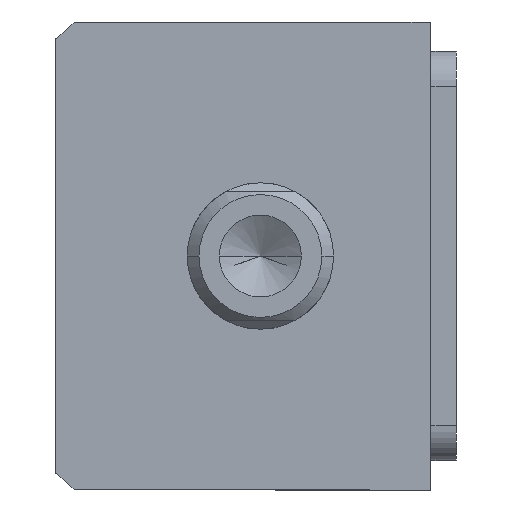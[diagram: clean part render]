
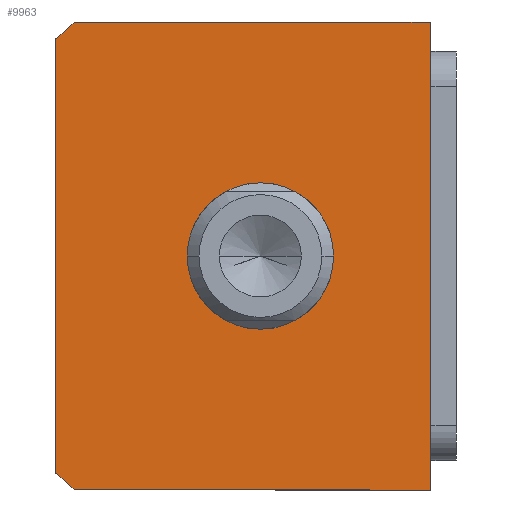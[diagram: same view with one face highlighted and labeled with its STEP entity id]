
A CAD part, front view. The second image highlights one B-rep face of the part: STEP entity #9963.
In plain terms, the highlighted planar face has unit normal (0, -1, 0) as drawn and (0, 0, -1) by its records, which use the part's own axes.
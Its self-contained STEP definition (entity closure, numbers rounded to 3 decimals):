
#32 = VECTOR ( 'NONE', #9331, 1000. ) ;
#50 = DIRECTION ( 'NONE',  ( 0., -1., 0. ) ) ;
#193 = VERTEX_POINT ( 'NONE', #7167 ) ;
#221 = EDGE_CURVE ( 'NONE', #539, #4658, #3336, .T. ) ;
#298 = FACE_OUTER_BOUND ( 'NONE', #2261, .T. ) ;
#367 = CARTESIAN_POINT ( 'NONE',  ( -12.5, 3., 0. ) ) ;
#397 = DIRECTION ( 'NONE',  ( 1., 0., 0. ) ) ;
#539 = VERTEX_POINT ( 'NONE', #8067 ) ;
#652 = CARTESIAN_POINT ( 'NONE',  ( 0., 3., 0. ) ) ;
#660 = DIRECTION ( 'NONE',  ( 1., 0., 0. ) ) ;
#685 = CARTESIAN_POINT ( 'NONE',  ( -40., -32., 0. ) ) ;
#864 = CARTESIAN_POINT ( 'NONE',  ( 40., -28.639, 0. ) ) ;
#1002 = CARTESIAN_POINT ( 'NONE',  ( 40., 32., 0. ) ) ;
#1135 = EDGE_CURVE ( 'NONE', #193, #5164, #1278, .T. ) ;
#1278 = CIRCLE ( 'NONE', #7914, 51. ) ;
#1472 = DIRECTION ( 'NONE',  ( 1., 0., 0. ) ) ;
#1560 = ORIENTED_EDGE ( 'NONE', *, *, #4684, .F. ) ;
#1586 = CARTESIAN_POINT ( 'NONE',  ( 40., 32., 0. ) ) ;
#1706 = AXIS2_PLACEMENT_3D ( 'NONE', #10579, #8088, #660 ) ;
#1866 = VECTOR ( 'NONE', #10608, 1000. ) ;
#2261 = EDGE_LOOP ( 'NONE', ( #4912, #8736, #9656, #4567, #1560, #3573 ) ) ;
#2665 = CARTESIAN_POINT ( 'NONE',  ( 37.094, -32., 0. ) ) ;
#3010 = EDGE_CURVE ( 'NONE', #10167, #6845, #4466, .T. ) ;
#3300 = DIRECTION ( 'NONE',  ( -1., 0., 0. ) ) ;
#3336 = CIRCLE ( 'NONE', #8690, 12.5 ) ;
#3491 = AXIS2_PLACEMENT_3D ( 'NONE', #10321, #5363, #397 ) ;
#3573 = ORIENTED_EDGE ( 'NONE', *, *, #8710, .F. ) ;
#3693 = EDGE_CURVE ( 'NONE', #6845, #10568, #7834, .T. ) ;
#3725 = CARTESIAN_POINT ( 'NONE',  ( -40., 32., 0. ) ) ;
#4084 = LINE ( 'NONE', #9976, #10431 ) ;
#4144 = CARTESIAN_POINT ( 'NONE',  ( -40., 32., 0. ) ) ;
#4352 = CIRCLE ( 'NONE', #6826, 12.5 ) ;
#4466 = LINE ( 'NONE', #1002, #32 ) ;
#4567 = ORIENTED_EDGE ( 'NONE', *, *, #3010, .F. ) ;
#4658 = VERTEX_POINT ( 'NONE', #367 ) ;
#4684 = EDGE_CURVE ( 'NONE', #5197, #10167, #8336, .T. ) ;
#4800 = PLANE ( 'NONE',  #1706 ) ;
#4912 = ORIENTED_EDGE ( 'NONE', *, *, #1135, .F. ) ;
#5164 = VERTEX_POINT ( 'NONE', #5967 ) ;
#5197 = VERTEX_POINT ( 'NONE', #2665 ) ;
#5363 = DIRECTION ( 'NONE',  ( 0., 0., 1. ) ) ;
#5967 = CARTESIAN_POINT ( 'NONE',  ( -37.094, -32., 0. ) ) ;
#6082 = DIRECTION ( 'NONE',  ( 1., 0., 0. ) ) ;
#6127 = DIRECTION ( 'NONE',  ( 1., 0., 0. ) ) ;
#6152 = DIRECTION ( 'NONE',  ( 0., 0., 1. ) ) ;
#6187 = CARTESIAN_POINT ( 'NONE',  ( 0., 3., 0. ) ) ;
#6388 = EDGE_LOOP ( 'NONE', ( #7408, #6722 ) ) ;
#6468 = DIRECTION ( 'NONE',  ( 0., 0., 1. ) ) ;
#6722 = ORIENTED_EDGE ( 'NONE', *, *, #8553, .T. ) ;
#6826 = AXIS2_PLACEMENT_3D ( 'NONE', #652, #6468, #1472 ) ;
#6845 = VERTEX_POINT ( 'NONE', #1586 ) ;
#6860 = DIRECTION ( 'NONE',  ( 0., 0., 1. ) ) ;
#6970 = CARTESIAN_POINT ( 'NONE',  ( 0., 3., 0. ) ) ;
#7167 = CARTESIAN_POINT ( 'NONE',  ( -40., -28.639, 0. ) ) ;
#7408 = ORIENTED_EDGE ( 'NONE', *, *, #221, .T. ) ;
#7834 = LINE ( 'NONE', #4144, #8092 ) ;
#7914 = AXIS2_PLACEMENT_3D ( 'NONE', #6970, #6860, #6127 ) ;
#8067 = CARTESIAN_POINT ( 'NONE',  ( 12.5, 3., 0. ) ) ;
#8088 = DIRECTION ( 'NONE',  ( 0., 0., 1. ) ) ;
#8092 = VECTOR ( 'NONE', #3300, 1000. ) ;
#8336 = CIRCLE ( 'NONE', #3491, 51. ) ;
#8485 = LINE ( 'NONE', #685, #1866 ) ;
#8553 = EDGE_CURVE ( 'NONE', #4658, #539, #4352, .T. ) ;
#8690 = AXIS2_PLACEMENT_3D ( 'NONE', #6187, #6152, #6082 ) ;
#8710 = EDGE_CURVE ( 'NONE', #5164, #5197, #8485, .T. ) ;
#8736 = ORIENTED_EDGE ( 'NONE', *, *, #8765, .F. ) ;
#8765 = EDGE_CURVE ( 'NONE', #10568, #193, #4084, .T. ) ;
#8860 = FACE_BOUND ( 'NONE', #6388, .T. ) ;
#9331 = DIRECTION ( 'NONE',  ( 0., 1., 0. ) ) ;
#9656 = ORIENTED_EDGE ( 'NONE', *, *, #3693, .F. ) ;
#9963 = ADVANCED_FACE ( 'NONE', ( #8860, #298 ), #4800, .F. ) ;
#9976 = CARTESIAN_POINT ( 'NONE',  ( -40., 32., 0. ) ) ;
#10167 = VERTEX_POINT ( 'NONE', #864 ) ;
#10321 = CARTESIAN_POINT ( 'NONE',  ( 0., 3., 0. ) ) ;
#10431 = VECTOR ( 'NONE', #50, 1000. ) ;
#10568 = VERTEX_POINT ( 'NONE', #3725 ) ;
#10579 = CARTESIAN_POINT ( 'NONE',  ( 0., 0., 0. ) ) ;
#10608 = DIRECTION ( 'NONE',  ( 1., 0., 0. ) ) ;
